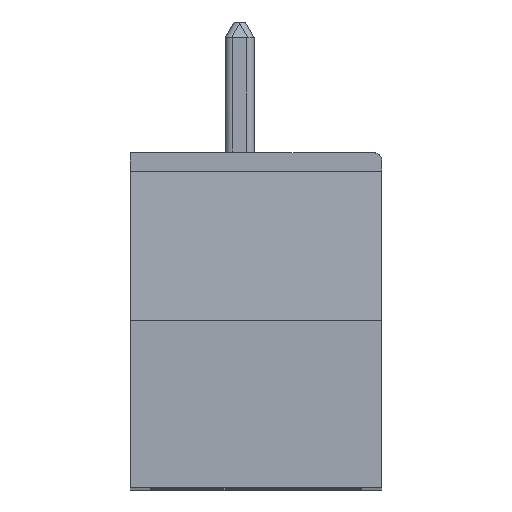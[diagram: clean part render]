
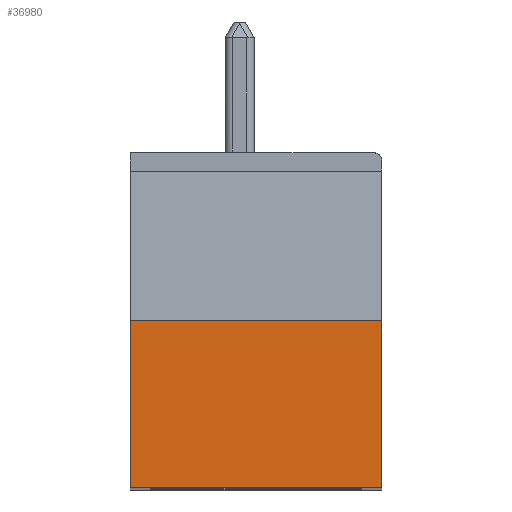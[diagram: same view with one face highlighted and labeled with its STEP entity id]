
A CAD part, top view. The second image highlights one B-rep face of the part: STEP entity #36980.
In plain terms, the highlighted planar face has unit normal (0, 0, 1).
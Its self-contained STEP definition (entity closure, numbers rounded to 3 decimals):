
#3090 = CARTESIAN_POINT ( 'NONE',  ( 0., -5.383, 0. ) ) ;
#3182 = DIRECTION ( 'NONE',  ( -1., 0., 0. ) ) ;
#3183 = VECTOR ( 'NONE', #3182, 1000. ) ;
#3184 = CARTESIAN_POINT ( 'NONE',  ( 3.45, -5.383, 0. ) ) ;
#3185 = LINE ( 'NONE', #3184, #3183 ) ;
#3266 = CARTESIAN_POINT ( 'NONE',  ( 6.9, -5.383, 0. ) ) ;
#4096 = CARTESIAN_POINT ( 'NONE',  ( 0., -9.983, 0. ) ) ;
#4151 = LINE ( 'NONE', #4195, #4194 ) ;
#4193 = DIRECTION ( 'NONE',  ( 0., -1., 0. ) ) ;
#4194 = VECTOR ( 'NONE', #4193, 1000. ) ;
#4195 = CARTESIAN_POINT ( 'NONE',  ( 0., -7.683, 0. ) ) ;
#4533 = FACE_OUTER_BOUND ( 'NONE', #36982, .T. ) ;
#4563 = DIRECTION ( 'NONE',  ( 0., -1., 0. ) ) ;
#4564 = DIRECTION ( 'NONE',  ( 0., 0., 1. ) ) ;
#4565 = CARTESIAN_POINT ( 'NONE',  ( 0., -5.383, 0. ) ) ;
#4566 = AXIS2_PLACEMENT_3D ( 'NONE', #4565, #4564, #4563 ) ;
#4567 = PLANE ( 'NONE',  #4566 ) ;
#4584 = CARTESIAN_POINT ( 'NONE',  ( 6.9, -9.983, 0. ) ) ;
#4585 = DIRECTION ( 'NONE',  ( 0., 1., 0. ) ) ;
#4586 = VECTOR ( 'NONE', #4585, 1000. ) ;
#4587 = CARTESIAN_POINT ( 'NONE',  ( 6.9, -7.683, 0. ) ) ;
#4592 = LINE ( 'NONE', #4587, #4586 ) ;
#4645 = DIRECTION ( 'NONE',  ( -1., 0., 0. ) ) ;
#4646 = VECTOR ( 'NONE', #4645, 1000. ) ;
#4647 = CARTESIAN_POINT ( 'NONE',  ( 0., -9.983, 0. ) ) ;
#4648 = LINE ( 'NONE', #4647, #4646 ) ;
#36023 = VERTEX_POINT ( 'NONE', #3090 ) ;
#36061 = EDGE_CURVE ( 'NONE', #36101, #36023, #3185, .T. ) ;
#36101 = VERTEX_POINT ( 'NONE', #3266 ) ;
#36618 = VERTEX_POINT ( 'NONE', #4096 ) ;
#36663 = EDGE_CURVE ( 'NONE', #36023, #36618, #4151, .T. ) ;
#36980 = ADVANCED_FACE ( 'NONE', ( #4533 ), #4567, .T. ) ;
#36982 = EDGE_LOOP ( 'NONE', ( #36985, #36987, #37024, #37029 ) ) ;
#36985 = ORIENTED_EDGE ( 'NONE', *, *, #36061, .T. ) ;
#36987 = ORIENTED_EDGE ( 'NONE', *, *, #36663, .T. ) ;
#37005 = EDGE_CURVE ( 'NONE', #37006, #36101, #4592, .T. ) ;
#37006 = VERTEX_POINT ( 'NONE', #4584 ) ;
#37024 = ORIENTED_EDGE ( 'NONE', *, *, #37027, .F. ) ;
#37027 = EDGE_CURVE ( 'NONE', #37006, #36618, #4648, .T. ) ;
#37029 = ORIENTED_EDGE ( 'NONE', *, *, #37005, .T. ) ;
